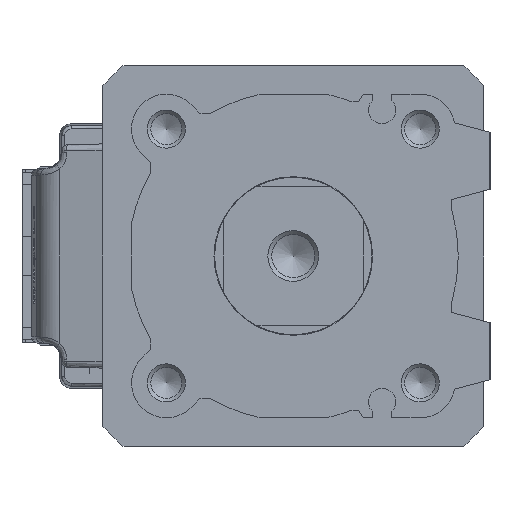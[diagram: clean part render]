
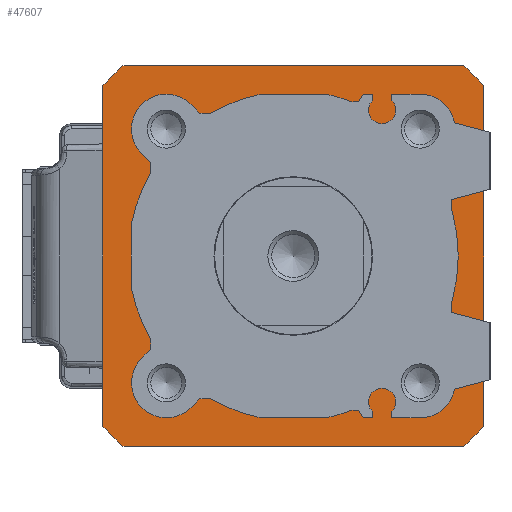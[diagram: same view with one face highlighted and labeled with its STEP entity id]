
A CAD part, left-side view. The second image highlights one B-rep face of the part: STEP entity #47607.
In plain terms, the highlighted planar face has unit normal (-1, 0, 0) as drawn and (0, 0, 1) by its records, which use the part's own axes.
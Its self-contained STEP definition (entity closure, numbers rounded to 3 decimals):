
#308 = DIRECTION ( 'NONE',  ( 0., 0., 1. ) ) ;
#1055 = CARTESIAN_POINT ( 'NONE',  ( 0., 0., 0. ) ) ;
#1861 = CIRCLE ( 'NONE', #45189, 40.25 ) ;
#2652 = CARTESIAN_POINT ( 'NONE',  ( -30., -26.834, 0. ) ) ;
#2688 = DIRECTION ( 'NONE',  ( 0., 0., 1. ) ) ;
#2821 = DIRECTION ( 'NONE',  ( -1., 0., 0. ) ) ;
#4144 = DIRECTION ( 'NONE',  ( 1., 0., 0. ) ) ;
#4332 = VECTOR ( 'NONE', #31703, 1000. ) ;
#4445 = VECTOR ( 'NONE', #5256, 1000. ) ;
#4724 = EDGE_CURVE ( 'NONE', #46722, #45100, #1861, .T. ) ;
#4949 = ORIENTED_EDGE ( 'NONE', *, *, #39484, .T. ) ;
#5256 = DIRECTION ( 'NONE',  ( 1., 0., 0. ) ) ;
#5260 = EDGE_LOOP ( 'NONE', ( #14463, #38832 ) ) ;
#5487 = ORIENTED_EDGE ( 'NONE', *, *, #40003, .T. ) ;
#6103 = ORIENTED_EDGE ( 'NONE', *, *, #33242, .T. ) ;
#6211 = PLANE ( 'NONE',  #32859 ) ;
#6512 = DIRECTION ( 'NONE',  ( 0., 0., 1. ) ) ;
#6996 = VERTEX_POINT ( 'NONE', #13478 ) ;
#8735 = EDGE_CURVE ( 'NONE', #26370, #21773, #27181, .T. ) ;
#9590 = CARTESIAN_POINT ( 'NONE',  ( -26.834, -30., 0. ) ) ;
#10343 = VECTOR ( 'NONE', #2821, 1000. ) ;
#10742 = LINE ( 'NONE', #38174, #10343 ) ;
#11865 = AXIS2_PLACEMENT_3D ( 'NONE', #26441, #6512, #49219 ) ;
#12623 = AXIS2_PLACEMENT_3D ( 'NONE', #1055, #308, #4144 ) ;
#13432 = CARTESIAN_POINT ( 'NONE',  ( 0., 0., 0. ) ) ;
#13464 = CIRCLE ( 'NONE', #20030, 40.25 ) ;
#13478 = CARTESIAN_POINT ( 'NONE',  ( 26.834, 30., 0. ) ) ;
#14463 = ORIENTED_EDGE ( 'NONE', *, *, #32971, .F. ) ;
#15554 = VERTEX_POINT ( 'NONE', #22096 ) ;
#16086 = LINE ( 'NONE', #19929, #4332 ) ;
#17019 = VERTEX_POINT ( 'NONE', #30885 ) ;
#17448 = CARTESIAN_POINT ( 'NONE',  ( 30., -26.834, 0. ) ) ;
#17552 = DIRECTION ( 'NONE',  ( 0., 0., 1. ) ) ;
#18291 = DIRECTION ( 'NONE',  ( 1., 0., 0. ) ) ;
#18463 = AXIS2_PLACEMENT_3D ( 'NONE', #13432, #2688, #18291 ) ;
#19297 = ORIENTED_EDGE ( 'NONE', *, *, #20821, .T. ) ;
#19859 = CARTESIAN_POINT ( 'NONE',  ( 30., 26.834, 0. ) ) ;
#19929 = CARTESIAN_POINT ( 'NONE',  ( 30., -26.834, 0. ) ) ;
#20030 = AXIS2_PLACEMENT_3D ( 'NONE', #33183, #17552, #48775 ) ;
#20078 = DIRECTION ( 'NONE',  ( 0., -1., 0. ) ) ;
#20821 = EDGE_CURVE ( 'NONE', #17019, #46722, #40068, .T. ) ;
#21018 = VECTOR ( 'NONE', #20078, 1000. ) ;
#21773 = VERTEX_POINT ( 'NONE', #36523 ) ;
#21853 = EDGE_CURVE ( 'NONE', #15554, #38555, #39703, .T. ) ;
#22096 = CARTESIAN_POINT ( 'NONE',  ( 15.6, 0., 0. ) ) ;
#23801 = DIRECTION ( 'NONE',  ( 1., 0., 0. ) ) ;
#26370 = VERTEX_POINT ( 'NONE', #30895 ) ;
#26441 = CARTESIAN_POINT ( 'NONE',  ( 0., 0., 0. ) ) ;
#27181 = CIRCLE ( 'NONE', #30479, 40.25 ) ;
#27995 = CARTESIAN_POINT ( 'NONE',  ( -30., 26.834, 0. ) ) ;
#28173 = ORIENTED_EDGE ( 'NONE', *, *, #37947, .T. ) ;
#28258 = LINE ( 'NONE', #27995, #21018 ) ;
#28959 = CARTESIAN_POINT ( 'NONE',  ( 0., 0., 0. ) ) ;
#29492 = ORIENTED_EDGE ( 'NONE', *, *, #8735, .T. ) ;
#29735 = FACE_BOUND ( 'NONE', #5260, .T. ) ;
#30479 = AXIS2_PLACEMENT_3D ( 'NONE', #47583, #44016, #23801 ) ;
#30885 = CARTESIAN_POINT ( 'NONE',  ( -26.834, -30., 0. ) ) ;
#30895 = CARTESIAN_POINT ( 'NONE',  ( -26.834, 30., 0. ) ) ;
#31703 = DIRECTION ( 'NONE',  ( 0., 1., 0. ) ) ;
#32859 = AXIS2_PLACEMENT_3D ( 'NONE', #41537, #37707, #36945 ) ;
#32971 = EDGE_CURVE ( 'NONE', #38555, #15554, #45343, .T. ) ;
#33069 = DIRECTION ( 'NONE',  ( 0., 0., 1. ) ) ;
#33183 = CARTESIAN_POINT ( 'NONE',  ( 0., 0., 0. ) ) ;
#33242 = EDGE_CURVE ( 'NONE', #47168, #6996, #37240, .T. ) ;
#33303 = VERTEX_POINT ( 'NONE', #2652 ) ;
#33576 = FACE_OUTER_BOUND ( 'NONE', #39037, .T. ) ;
#36523 = CARTESIAN_POINT ( 'NONE',  ( -30., 26.834, 0. ) ) ;
#36945 = DIRECTION ( 'NONE',  ( 1., 0., 0. ) ) ;
#37240 = CIRCLE ( 'NONE', #11865, 40.25 ) ;
#37456 = CARTESIAN_POINT ( 'NONE',  ( 26.834, -30., 0. ) ) ;
#37707 = DIRECTION ( 'NONE',  ( 0., 0., 1. ) ) ;
#37947 = EDGE_CURVE ( 'NONE', #33303, #17019, #13464, .T. ) ;
#38174 = CARTESIAN_POINT ( 'NONE',  ( 26.834, 30., 0. ) ) ;
#38555 = VERTEX_POINT ( 'NONE', #49340 ) ;
#38832 = ORIENTED_EDGE ( 'NONE', *, *, #21853, .F. ) ;
#39037 = EDGE_LOOP ( 'NONE', ( #29492, #5487, #28173, #19297, #43385, #46332, #6103, #4949 ) ) ;
#39484 = EDGE_CURVE ( 'NONE', #6996, #26370, #10742, .T. ) ;
#39703 = CIRCLE ( 'NONE', #18463, 15.6 ) ;
#40003 = EDGE_CURVE ( 'NONE', #21773, #33303, #28258, .T. ) ;
#40068 = LINE ( 'NONE', #9590, #4445 ) ;
#41537 = CARTESIAN_POINT ( 'NONE',  ( 0., 0., 0. ) ) ;
#43385 = ORIENTED_EDGE ( 'NONE', *, *, #4724, .T. ) ;
#44016 = DIRECTION ( 'NONE',  ( 0., 0., 1. ) ) ;
#45100 = VERTEX_POINT ( 'NONE', #17448 ) ;
#45189 = AXIS2_PLACEMENT_3D ( 'NONE', #28959, #33069, #49163 ) ;
#45343 = CIRCLE ( 'NONE', #12623, 15.6 ) ;
#46332 = ORIENTED_EDGE ( 'NONE', *, *, #49363, .T. ) ;
#46722 = VERTEX_POINT ( 'NONE', #37456 ) ;
#47168 = VERTEX_POINT ( 'NONE', #19859 ) ;
#47583 = CARTESIAN_POINT ( 'NONE',  ( 0., 0., 0. ) ) ;
#47607 = ADVANCED_FACE ( 'NONE', ( #29735, #33576 ), #6211, .T. ) ;
#48775 = DIRECTION ( 'NONE',  ( 1., 0., 0. ) ) ;
#49163 = DIRECTION ( 'NONE',  ( 1., 0., 0. ) ) ;
#49219 = DIRECTION ( 'NONE',  ( 1., 0., 0. ) ) ;
#49340 = CARTESIAN_POINT ( 'NONE',  ( -15.6, 0., 0. ) ) ;
#49363 = EDGE_CURVE ( 'NONE', #45100, #47168, #16086, .T. ) ;
